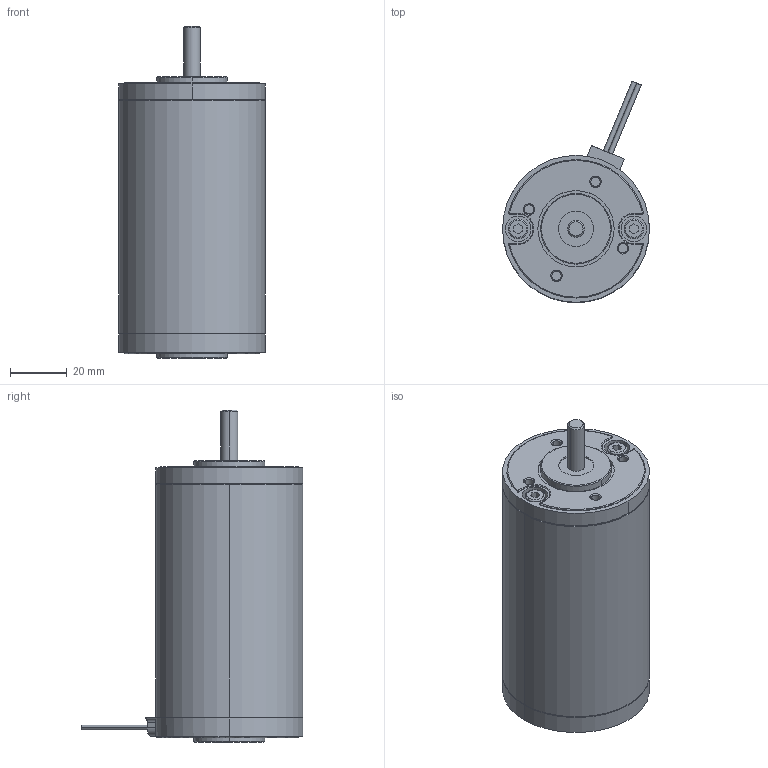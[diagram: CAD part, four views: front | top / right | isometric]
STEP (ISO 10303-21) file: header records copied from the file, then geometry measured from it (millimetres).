
FILE_DESCRIPTION (( 'STEP AP214' ), '1' );
FILE_NAME ('Pg 5230.STEP', '2009-12-08T14:10:20', ( 'hirschmeier' ), ( '' ), 'SwSTEP 2.0', 'SolidWorks 2008', '' );
FILE_SCHEMA (( 'AUTOMOTIVE_DESIGN' ));
Length unit declared in the file: millimetre
Products named in the file (1): Pg 5230
Bounding box: 52 x 78.41 x 117.5 mm (x, y, z)
Volume: 205315.8 mm3; surface area: 22129.4 mm2
Topology: 3 solids, 3 shells, 191 faces, 427 edges, 258 vertices
Faces by surface type: cylinder 82, plane 58, cone 20, torus 19, sphere 12
Entity records: 5883 total; most frequent: DIRECTION 1018, CARTESIAN_POINT 982, ORIENTED_EDGE 838, EDGE_CURVE 419, AXIS2_PLACEMENT_3D 418, VERTEX_POINT 258, CIRCLE 226, EDGE_LOOP 215
